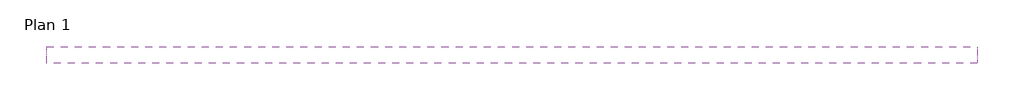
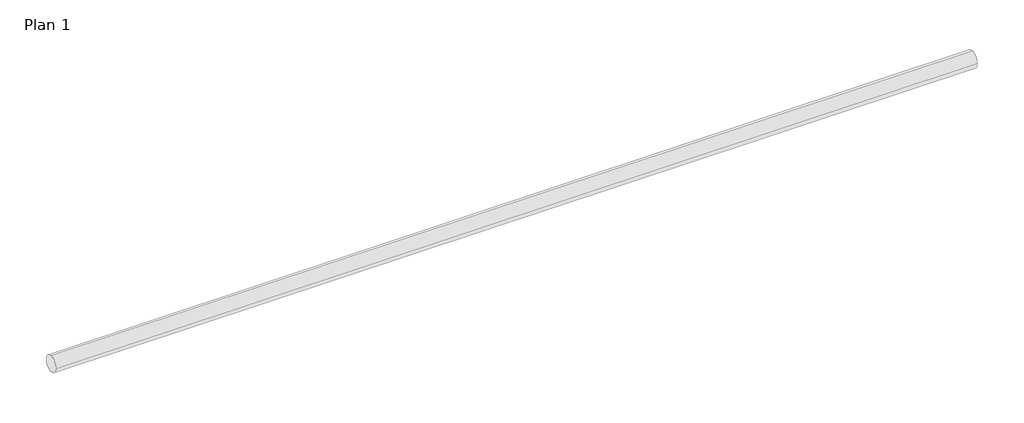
# One storey: 1 pipe segment.
"""IFC4 building model written with IfcOpenShell, lengths in millimetres."""

import ifcopenshell
import ifcopenshell.guid

model = None  # the IFC model being written
_history = None  # IfcOwnerHistory: only IFC2X3 demands one
_inside = {}  # id of a spatial element -> (the spatial element, [elements in it])
_under = {}  # id of a project, library or spatial element -> (it, [spatial elements below it])
_declared = {}  # id of a project -> (the project, [libraries it declares])
_typed = {}  # id of a type object -> (the type object, [elements of that type])
_made_of = {}  # id of a material, layer set ... -> (it, [elements and type objects made of it])


def new_model(schema):
    """Start an empty IFC model of exactly this schema.

    Asked for "IFC4X3", IfcOpenShell would pick the latest addendum, in which some entities
    have other attributes; the version numbers below select the first issue.
    IFC2X3 requires an IfcOwnerHistory on every rooted entity: one is made here for all.
    """
    global model, _history
    if schema == "IFC4X3":
        model = ifcopenshell.file(schema_version=(4, 3, 0, 0))
    else:
        model = ifcopenshell.file(schema=schema)
    _inside.clear()
    _under.clear()
    _declared.clear()
    _typed.clear()
    _made_of.clear()
    _history = None
    if model.schema == "IFC2X3":
        org = make("IfcOrganization", Name="unknown")
        user = make(
            "IfcPersonAndOrganization",
            ThePerson=make("IfcPerson", FamilyName="unknown"),
            TheOrganization=org,
        )
        app = make(
            "IfcApplication",
            ApplicationDeveloper=org,
            Version="unknown",
            ApplicationFullName="unknown",
            ApplicationIdentifier="unknown",
        )
        _history = make(
            "IfcOwnerHistory",
            OwningUser=user,
            OwningApplication=app,
            ChangeAction="ADDED",
            CreationDate=0,
        )
    return model


def make(cls, **values):
    """One entity of the class cls with the attributes given. An attribute that is None is left unset."""
    return model.create_entity(
        cls, **{name: value for name, value in values.items() if value is not None}
    )


def rooted(cls, **values):
    """An entity with a GlobalId (a new one), such as an element, a storey or a relation."""
    return make(cls, GlobalId=ifcopenshell.guid.new(), OwnerHistory=_history, **values)


def si_unit(unit_type, name, prefix=None):
    """IfcSIUnit, for example si_unit("LENGTHUNIT", "METRE", prefix="MILLI")."""
    return make("IfcSIUnit", UnitType=unit_type, Prefix=prefix, Name=name)


def assignment(units):
    """IfcUnitAssignment: the units of a project."""
    return None if units is None else make("IfcUnitAssignment", Units=units)


def point(xyz):
    """IfcCartesianPoint."""
    return None if xyz is None else make("IfcCartesianPoint", Coordinates=xyz)


def direction(xyz):
    """IfcDirection."""
    return None if xyz is None else make("IfcDirection", DirectionRatios=xyz)


def frame(location, z_axis=None, x_axis=None):
    """IfcAxis2Placement3D, a coordinate frame: its origin and axes. An axis left out is left unset."""
    return make(
        "IfcAxis2Placement3D",
        Location=point(location),
        Axis=direction(z_axis),
        RefDirection=direction(x_axis),
    )


def frame_2d(location, x_axis=None):
    """IfcAxis2Placement2D, a coordinate frame in the plane: its origin and x axis."""
    return make(
        "IfcAxis2Placement2D", Location=point(location), RefDirection=direction(x_axis)
    )


def origin():
    """The frame at (0, 0, 0) with its axes left unset."""
    return frame((0.0, 0.0, 0.0))


def place(relative_to, where):
    """IfcLocalPlacement: puts the frame where relative to a parent placement (None: the world)."""
    return make(
        "IfcLocalPlacement", PlacementRelTo=relative_to, RelativePlacement=where
    )


def context(
    kind, dimensions, precision=None, world=None, true_north=None, identifier=None
):
    """IfcGeometricRepresentationContext, for example the 3D "Model" context."""
    return make(
        "IfcGeometricRepresentationContext",
        ContextIdentifier=identifier,
        ContextType=kind,
        CoordinateSpaceDimension=dimensions,
        Precision=precision,
        WorldCoordinateSystem=world,
        TrueNorth=true_north,
    )


def project(units=None, contexts=None):
    """IfcProject with its units and contexts."""
    return rooted(
        "IfcProject",
        Name="project",
        RepresentationContexts=contexts,
        UnitsInContext=assignment(units),
    )


def spatial(cls, under=None, at=None, **own):
    """A site, building, storey or space (cls), placed at a placement, below another one or the project."""
    s = rooted(cls, ObjectPlacement=at, **own)
    if under is not None:
        _under.setdefault(under.id(), (under, []))[1].append(s)
    return s


def circle_curve(where, radius):
    """IfcCircle in the frame where."""
    return make("IfcCircle", Position=where, Radius=radius)


def trimmed(basis, trim1, trim2, sense, master):
    """IfcTrimmedCurve: the piece of a basis curve between two trims."""
    return make(
        "IfcTrimmedCurve",
        BasisCurve=basis,
        Trim1=trim1,
        Trim2=trim2,
        SenseAgreement=sense,
        MasterRepresentation=master,
    )


def segment(curve, same_sense, transition):
    """IfcCompositeCurveSegment."""
    return make(
        "IfcCompositeCurveSegment",
        Transition=transition,
        SameSense=same_sense,
        ParentCurve=curve,
    )


def composite_curve(segments, self_intersect=None):
    """IfcCompositeCurve: segments joined end to end."""
    return make("IfcCompositeCurve", Segments=segments, SelfIntersect=self_intersect)


def outline(outer, holes=None, kind="AREA"):
    """IfcArbitraryClosedProfileDef: a profile drawn as a closed curve; with holes, ...WithVoids."""
    if holes is None:
        return make("IfcArbitraryClosedProfileDef", ProfileType=kind, OuterCurve=outer)
    return make(
        "IfcArbitraryProfileDefWithVoids",
        ProfileType=kind,
        OuterCurve=outer,
        InnerCurves=holes,
    )


def extrude(swept, where, along, depth):
    """IfcExtrudedAreaSolid: the profile swept, set in the frame where, extruded along a direction by depth."""
    return make(
        "IfcExtrudedAreaSolid",
        SweptArea=swept,
        Position=where,
        ExtrudedDirection=direction(along),
        Depth=depth,
    )


def shape(context_of_items, identifier, shape_type, items):
    """IfcShapeRepresentation: the items that make up one representation, for example the "Body"."""
    return make(
        "IfcShapeRepresentation",
        ContextOfItems=context_of_items,
        RepresentationIdentifier=identifier,
        RepresentationType=shape_type,
        Items=items,
    )


def made_of(thing, what):
    """Note that an element or type object is made of a material, layer set ...; save() writes the relation."""
    if what is not None:
        _made_of.setdefault(what.id(), (what, []))[1].append(thing)
    return thing


def element(
    cls,
    number,
    at=None,
    inside=None,
    cuts=None,
    type_object=None,
    material=None,
    context=None,
    identifier="Body",
    shape_type=None,
    held_by="IfcProductDefinitionShape",
    body=None,
    shapes=None,
    **own,
):
    """One element of the class cls, such as IfcWall. Its Tag is "e" and its number.

    at: its placement. inside: the storey or other place that contains it. cuts: it is an
    opening in that element (IfcRelVoidsElement). A single representation is given by context,
    identifier, shape_type and body (its items); several are given by shapes. held_by: the class
    of the entity that holds the representations. save() writes the other relations.
    """
    e = rooted(cls, Tag="e%d" % number, ObjectPlacement=at, **own)
    if body is not None:
        shapes = [shape(context, identifier, shape_type, body)]
    if shapes is not None:
        e.Representation = make(held_by, Representations=shapes)
    if inside is not None:
        _inside.setdefault(inside.id(), (inside, []))[1].append(e)
    if cuts is not None:
        rooted(
            "IfcRelVoidsElement", RelatingBuildingElement=cuts, RelatedOpeningElement=e
        )
    if type_object is not None:
        _typed.setdefault(type_object.id(), (type_object, []))[1].append(e)
    return made_of(e, material)


def aggregate(whole, parts):
    """IfcRelAggregates: a whole, such as a stair, and the parts it consists of."""
    return rooted("IfcRelAggregates", RelatingObject=whole, RelatedObjects=parts)


def save(model, path):
    """Write the relations noted so far, then the file.

    IfcRelAggregates (storeys below a building ...), IfcRelContainedInSpatialStructure (elements
    in a storey), IfcRelDefinesByType, IfcRelAssociatesMaterial and IfcRelDeclares: one each for
    every whole, place, type object, material and project.
    """
    for whole, parts in _under.values():
        aggregate(whole, parts)
    for where, things in _inside.values():
        rooted(
            "IfcRelContainedInSpatialStructure",
            RelatedElements=things,
            RelatingStructure=where,
        )
    for kind, things in _typed.values():
        rooted("IfcRelDefinesByType", RelatedObjects=things, RelatingType=kind)
    for what, things in _made_of.values():
        rooted("IfcRelAssociatesMaterial", RelatedObjects=things, RelatingMaterial=what)
    for by, libraries in _declared.values():
        rooted("IfcRelDeclares", RelatingContext=by, RelatedDefinitions=libraries)
    model.write(path)


model = new_model("IFC4")

# Units and contexts
model_context = context("Model", 3, world=origin())
ifc_project = project(units=[si_unit("LENGTHUNIT", "METRE", prefix="MILLI")], contexts=[model_context])

# Site, building, storey
site = spatial("IfcSite", under=ifc_project)
building = spatial("IfcBuilding", under=site)
storey = spatial("IfcBuildingStorey", under=building, Name="Plan 1", Elevation=151000.0)

# Pipe segment
placement = place(None, origin())
element("IfcPipeSegment", 1, ObjectType="MA", at=placement, inside=storey, context=model_context, shape_type="SweptSolid", body=[
    extrude(outline(composite_curve([segment(trimmed(circle_curve(frame_2d((294741.6, 153500.0)), 55.0000001), [point((294686.5999999, 153500.0))], [point((294741.6, 153555.0000001))], False, "CARTESIAN"), True, "CONTINUOUS"), segment(trimmed(circle_curve(frame_2d((294741.6, 153500.0)), 55.0000001), [point((294741.6, 153555.0000001))], [point((294796.6000001, 153500.0))], False, "CARTESIAN"), True, "CONTINUOUS"), segment(trimmed(circle_curve(frame_2d((294741.6, 153500.0)), 55.0000001), [point((294796.6000001, 153500.0))], [point((294741.6, 153444.9999999))], False, "CARTESIAN"), True, "CONTINUOUS"), segment(trimmed(circle_curve(frame_2d((294741.6, 153500.0)), 55.0000001), [point((294741.6, 153444.9999999))], [point((294686.5999999, 153500.0))], False, "CARTESIAN"), True, "CONTINUOUS")], self_intersect=False)), frame((210921.6, 0.0, 0.0), z_axis=(1.0, 0.0, 0.0), x_axis=(0.0, 1.0, 0.0)), (0.0, 0.0, 1.0), 6096.0),
])

save(model, "model.ifc")
